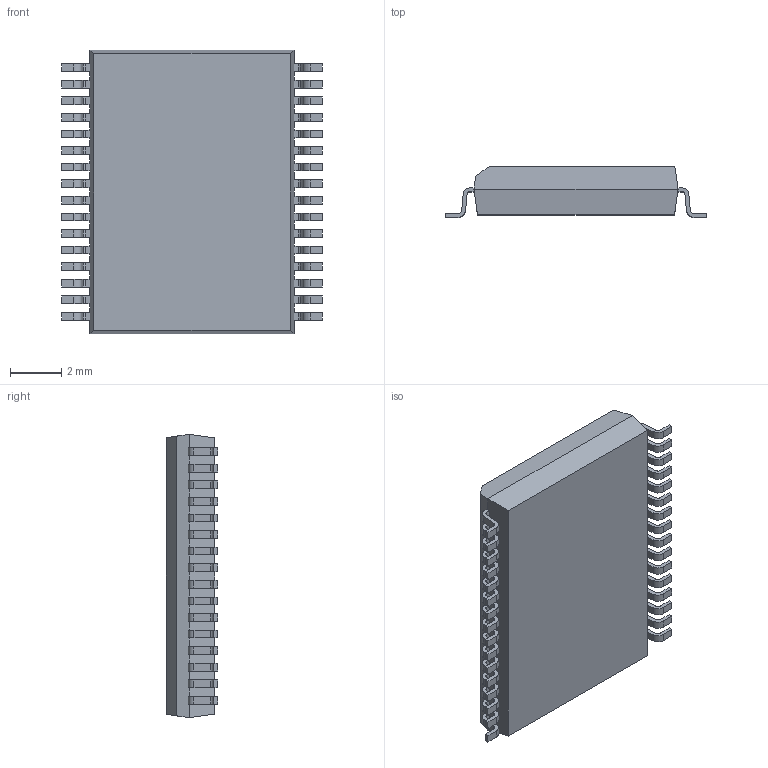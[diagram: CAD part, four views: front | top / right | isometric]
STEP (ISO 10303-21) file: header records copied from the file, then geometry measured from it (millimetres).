
FILE_DESCRIPTION (( 'STEP AP214' ), '1' );
FILE_NAME ('SOP65P1000X200-32_MO-152.GB.STEP', '2014-10-30T11:22:10', ( 'Tester2' ), ( '' ), 'SwSTEP 2.0', 'SolidWorks 2012', '' );
FILE_SCHEMA (( 'AUTOMOTIVE_DESIGN' ));
Length unit declared in the file: millimetre
Products named in the file (1): SOP65P1000X200-32_MO-152.GB
Bounding box: 10.2 x 2 x 11.1 mm (x, y, z)
Volume: 165.6 mm3; surface area: 291.7 mm2
Topology: 1 solids, 1 shells, 430 faces, 1277 edges, 850 vertices
Faces by surface type: plane 300, cylinder 130
Entity records: 18992 total; most frequent: CARTESIAN_POINT 2558, ORIENTED_EDGE 2554, DIRECTION 2399, EDGE_CURVE 1277, VECTOR 1017, LINE 1017, VERTEX_POINT 850, AXIS2_PLACEMENT_3D 691
